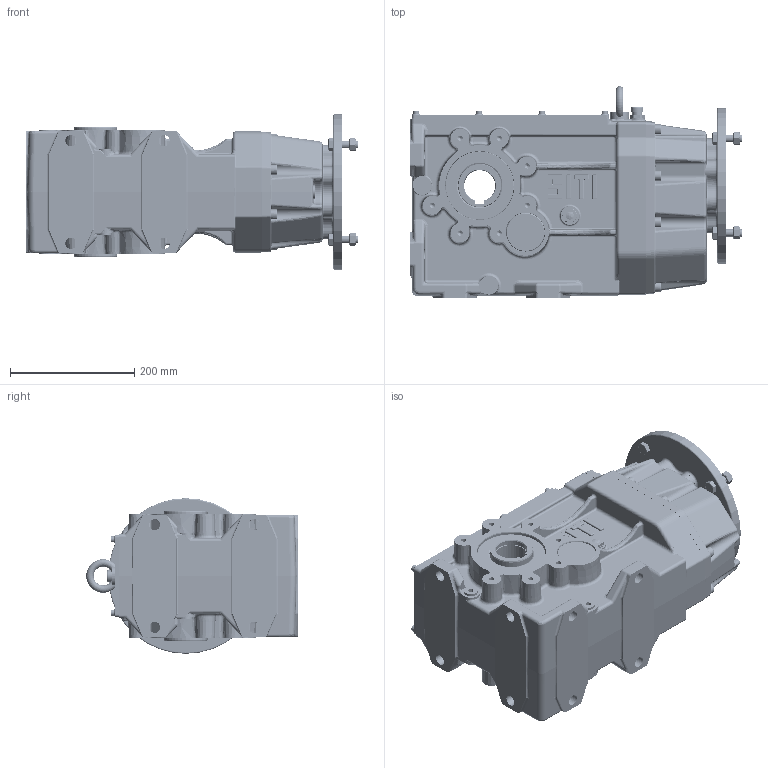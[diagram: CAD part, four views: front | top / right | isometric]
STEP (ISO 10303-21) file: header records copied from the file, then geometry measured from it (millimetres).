
FILE_DESCRIPTION((''),'2;1');
FILE_NAME('C:\Users\m.piscopiello.SITIRIDUTTORI\Desktop\3D x SITO\MBH 100 PAM 100\MBH_100 C PAM 100 - 112 B5.stp','2013-05-03T09:18:58',('m.piscopiello'),(''),'Autodesk Inventor 2012','Autodesk Inventor 2012','');
FILE_SCHEMA(('CONFIG_CONTROL_DESIGN'));
Length unit declared in the file: millimetre
Products named in the file (1): MBH_100 C PAM 100 - 112 B5
Bounding box: 533.5 x 340 x 250 mm (x, y, z)
Volume: 6901908.2 mm3; surface area: 1529938.5 mm2
Topology: 69 solids, 71 shells, 3932 faces, 9188 edges, 5449 vertices
Faces by surface type: cylinder 1175, plane 1155, bspline 752, torus 381, cone 283, sphere 186
Full cylindrical faces by diameter (mm): 4.917 x8, 6 x16, 6.4 x8, 6.647 x8, 7 x8, 8 x16, 8.376 x22, 9 x8, 10 x20, 10.106 x3, 11 x10, 12 x25, 12.5 x8, 14 x4, 14.95 x1, 16 x9, 16.6 x7, 18 x8, 18.95 x1, 19 x1, 19.07 x1, 19.5 x1, 20 x1, 25 x1, 30 x4, 36 x1, 37.5 x1, 39.586 x1, 39.986 x2, 47 x1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
Entity records: 136407 total; most frequent: CARTESIAN_POINT 49255, DIRECTION 17041, ORIENTED_EDGE 16648, EDGE_CURVE 8324, AXIS2_PLACEMENT_3D 7075, VERTEX_POINT 5244, EDGE_LOOP 4747, STYLED_ITEM 3999
